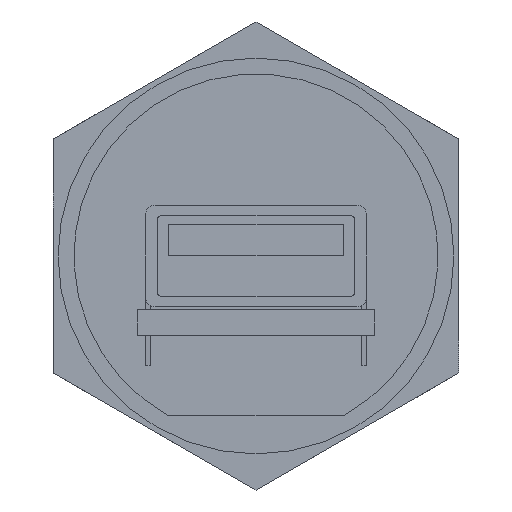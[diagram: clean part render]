
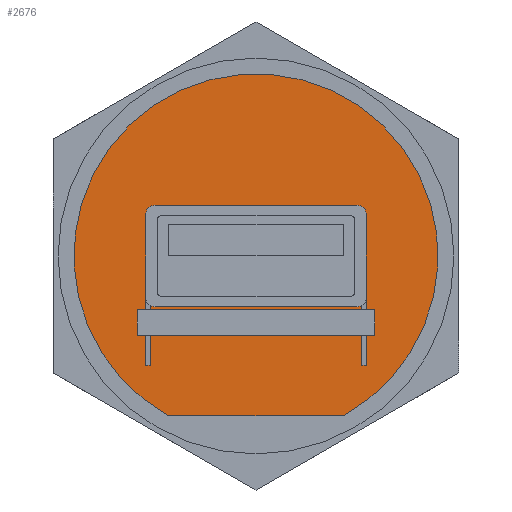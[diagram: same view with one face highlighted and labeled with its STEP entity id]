
A CAD part, left-side view. The second image highlights one B-rep face of the part: STEP entity #2676.
In plain terms, the highlighted planar face has unit normal (-1, 0, 0).
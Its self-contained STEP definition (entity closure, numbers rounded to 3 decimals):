
#337=LINE('',#7420,#540);
#346=LINE('',#7440,#549);
#359=LINE('',#7468,#562);
#360=LINE('',#7473,#563);
#361=LINE('',#7474,#564);
#540=VECTOR('',#3316,1.);
#549=VECTOR('',#3329,1.);
#562=VECTOR('',#3352,1.);
#563=VECTOR('',#3357,1.);
#564=VECTOR('',#3358,1.);
#674=FACE_BOUND('',#951,.T.);
#790=FACE_OUTER_BOUND('',#950,.T.);
#950=EDGE_LOOP('',(#2209,#2210));
#951=EDGE_LOOP('',(#2211,#2212,#2213,#2214));
#1029=CIRCLE('',#2923,11.5);
#1239=VERTEX_POINT('',#7416);
#1241=VERTEX_POINT('',#7419);
#1249=VERTEX_POINT('',#7437);
#1250=VERTEX_POINT('',#7439);
#1261=VERTEX_POINT('',#7470);
#1262=VERTEX_POINT('',#7471);
#1599=EDGE_CURVE('',#1241,#1239,#337,.T.);
#1608=EDGE_CURVE('',#1249,#1250,#346,.T.);
#1623=EDGE_CURVE('',#1250,#1239,#359,.T.);
#1624=EDGE_CURVE('',#1261,#1262,#1029,.T.);
#1625=EDGE_CURVE('',#1262,#1261,#360,.T.);
#1626=EDGE_CURVE('',#1249,#1241,#361,.T.);
#2209=ORIENTED_EDGE('',*,*,#1624,.T.);
#2210=ORIENTED_EDGE('',*,*,#1625,.T.);
#2211=ORIENTED_EDGE('',*,*,#1599,.T.);
#2212=ORIENTED_EDGE('',*,*,#1623,.F.);
#2213=ORIENTED_EDGE('',*,*,#1608,.F.);
#2214=ORIENTED_EDGE('',*,*,#1626,.T.);
#2535=PLANE('',#2922);
#2676=ADVANCED_FACE('',(#790,#674),#2535,.F.);
#2922=AXIS2_PLACEMENT_3D('',#7469,#3353,#3354);
#2923=AXIS2_PLACEMENT_3D('',#7472,#3355,#3356);
#3316=DIRECTION('',(0.,-1.,0.));
#3329=DIRECTION('',(0.,-1.,0.));
#3352=DIRECTION('',(0.,0.,1.));
#3353=DIRECTION('center_axis',(1.,0.,0.));
#3354=DIRECTION('ref_axis',(0.,0.,-1.));
#3355=DIRECTION('center_axis',(-1.,0.,0.));
#3356=DIRECTION('ref_axis',(0.,0.,1.));
#3357=DIRECTION('',(0.,-1.,0.));
#3358=DIRECTION('',(0.,0.,1.));
#7416=CARTESIAN_POINT('',(-22.,-7.5,-3.4));
#7419=CARTESIAN_POINT('',(-22.,7.5,-3.4));
#7420=CARTESIAN_POINT('',(-22.,3.8,-3.4));
#7437=CARTESIAN_POINT('',(-22.,7.5,-5.));
#7439=CARTESIAN_POINT('',(-22.,-7.5,-5.));
#7440=CARTESIAN_POINT('',(-22.,7.6,-5.));
#7468=CARTESIAN_POINT('',(-22.,-7.5,-5.7));
#7469=CARTESIAN_POINT('Origin',(-22.,0.,-1.3));
#7470=CARTESIAN_POINT('',(-22.,-5.499,-10.1));
#7471=CARTESIAN_POINT('',(-22.,5.499,-10.1));
#7472=CARTESIAN_POINT('Origin',(-22.,0.,0.));
#7473=CARTESIAN_POINT('',(-22.,10.188,-10.1));
#7474=CARTESIAN_POINT('',(-22.,7.5,-5.7));
